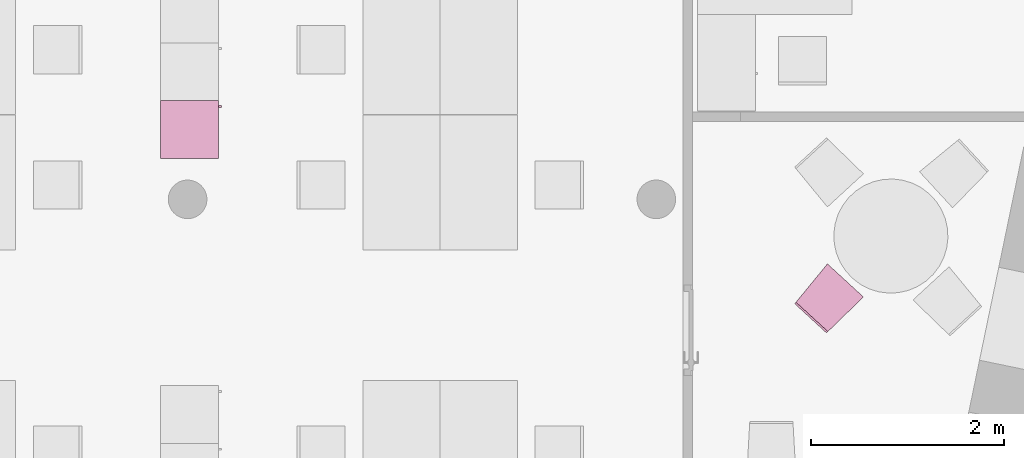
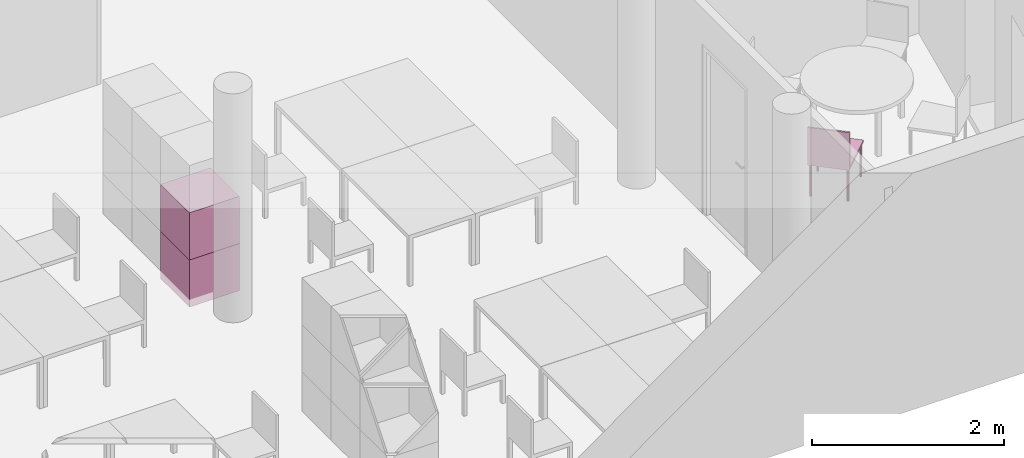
"""IFC4 building model written with IfcOpenShell, lengths in metres."""

from ifc_helpers import new_model, entity, si_unit, converted_unit, derived_unit, frame, origin, place, context, subcontext, project, spatial, faceted_brep, element, save


model = new_model("IFC4")

# Units and contexts
model_context = context("Model", 3, precision=1e-05, world=origin())
body_context = subcontext(model_context, "Body", "Model", "MODEL_VIEW")
ifc_project = project(units=[si_unit("LENGTHUNIT", "METRE"), si_unit("AREAUNIT", "SQUARE_METRE"), si_unit("VOLUMEUNIT", "CUBIC_METRE"), si_unit("MASSUNIT", "GRAM", prefix="KILO"), converted_unit("PLANEANGLEUNIT", "DEGREE", entity("IfcPlaneAngleMeasure", 0.0174532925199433), si_unit("PLANEANGLEUNIT", "RADIAN"), dimensions=[0, 0, 0, 0, 0, 0, 0]), derived_unit("THERMALTRANSMITTANCEUNIT", [(si_unit("POWERUNIT", "WATT"), 1), (si_unit("THERMODYNAMICTEMPERATUREUNIT", "KELVIN"), -1), (si_unit("LENGTHUNIT", "METRE"), -2)]), derived_unit("VOLUMETRICFLOWRATEUNIT", [(si_unit("LENGTHUNIT", "METRE"), 3), (converted_unit("TIMEUNIT", "hour", entity("IfcTimeMeasure", 3600.0), si_unit("TIMEUNIT", "SECOND"), dimensions=[0, 0, 1, 0, 0, 0, 0]), -1), (si_unit("LENGTHUNIT", "METRE"), -1)])], contexts=[model_context])

# Building, storeys
building_placement = place(None, origin())
building = spatial("IfcBuilding", under=ifc_project, at=building_placement, Name="HABITATGE PLURIFAMILIAR", CompositionType="ELEMENT")
storey_1_placement = place(building_placement, frame((0.0, 0.0, 12.27)))
storey_1 = spatial("IfcBuildingStorey", under=building, at=storey_1_placement, Name="PLANTA TERCERA", CompositionType="ELEMENT", Elevation=12.27)
storey_2_placement = place(storey_1_placement, frame((0.0, 0.0, 9.26)))
storey_2 = spatial("IfcBuildingStorey", under=storey_1, at=storey_2_placement, Name="NOU", CompositionType="PARTIAL")

# Furniture
furniture_1_placement = place(storey_2_placement, frame((422.425973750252, 16.4161636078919, -9.36074913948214)))
element("IfcFurniture", 1, at=furniture_1_placement, inside=storey_2, Name="Cadira confident_P3", context=body_context, shape_type="Brep", body=[
    faceted_brep([(0.328242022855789, 0.689838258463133, 0.0), (0.326652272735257, 0.687776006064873, 0.0), (0.325444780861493, 0.68546902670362, 0.0), (0.324656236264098, 0.682987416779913, 0.0), (0.324310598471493, 0.68040657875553, 0.0), (0.324418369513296, 0.677804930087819, 0.0), (0.324976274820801, 0.675261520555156, 0.0), (0.325967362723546, 0.672853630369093, 0.0), (0.327361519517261, 0.670654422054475, 0.0), (0.32911638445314, 0.668730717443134, 0.0), (0.331178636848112, 0.66714096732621, 0.0), (0.333485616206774, 0.665933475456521, 0.0), (0.335967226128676, 0.665144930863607, 0.0), (0.338548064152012, 0.664799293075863, 0.0), (0.34114971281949, 0.664907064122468, 0.0), (0.343693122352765, 0.665464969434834, 0.0), (0.346101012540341, 0.666456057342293, 0.0), (0.3483002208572, 0.667850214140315, 0.0), (0.350223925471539, 0.669605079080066, 0.0), (0.351813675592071, 0.671667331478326, 0.0), (0.353021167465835, 0.673974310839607, 0.0), (0.353809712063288, 0.676455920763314, 0.0), (0.354155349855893, 0.679036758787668, 0.0), (0.35404757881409, 0.681638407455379, 0.0), (0.353489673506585, 0.684181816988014, 0.0), (0.352498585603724, 0.686589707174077, 0.0), (0.351104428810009, 0.688788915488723, 0.0), (0.34934956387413, 0.690712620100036, 0.0), (0.347287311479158, 0.692302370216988, 0.0), (0.344980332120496, 0.693509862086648, 0.0), (0.34249872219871, 0.694298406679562, 0.0), (0.339917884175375, 0.694644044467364, 0.0), (0.337316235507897, 0.69453627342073, 0.0), (0.334772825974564, 0.693978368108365, 0.0), (0.332364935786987, 0.692987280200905, 0.0), (0.330165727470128, 0.691593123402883, 0.0), (0.328242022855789, 0.689838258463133, 0.448281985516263), (0.330165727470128, 0.691593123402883, 0.448281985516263), (0.332364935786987, 0.692987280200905, 0.448281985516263), (0.334772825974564, 0.693978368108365, 0.448281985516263), (0.337316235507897, 0.69453627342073, 0.448281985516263), (0.339917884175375, 0.694644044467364, 0.448281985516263), (0.34249872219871, 0.694298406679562, 0.448281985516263), (0.344980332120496, 0.693509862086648, 0.448281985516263), (0.347287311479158, 0.692302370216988, 0.448281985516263), (0.34934956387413, 0.690712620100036, 0.448281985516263), (0.351104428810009, 0.688788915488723, 0.448281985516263), (0.352498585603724, 0.686589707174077, 0.448281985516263), (0.353489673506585, 0.684181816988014, 0.448281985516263), (0.35404757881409, 0.681638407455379, 0.448281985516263), (0.354155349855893, 0.679036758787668, 0.448281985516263), (0.353809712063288, 0.676455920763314, 0.448281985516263), (0.353021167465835, 0.673974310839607, 0.448281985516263), (0.351813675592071, 0.671667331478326, 0.448281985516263), (0.350223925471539, 0.669605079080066, 0.448281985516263), (0.3483002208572, 0.667850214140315, 0.448281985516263), (0.346101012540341, 0.666456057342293, 0.448281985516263), (0.343693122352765, 0.665464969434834, 0.448281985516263), (0.34114971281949, 0.664907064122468, 0.448281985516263), (0.338548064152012, 0.664799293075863, 0.448281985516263), (0.335967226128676, 0.665144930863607, 0.448281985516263), (0.333485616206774, 0.665933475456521, 0.448281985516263), (0.331178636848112, 0.66714096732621, 0.448281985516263), (0.32911638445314, 0.668730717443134, 0.448281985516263), (0.327361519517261, 0.670654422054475, 0.448281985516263), (0.325967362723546, 0.672853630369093, 0.448281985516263), (0.324976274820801, 0.675261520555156, 0.448281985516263), (0.324418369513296, 0.677804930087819, 0.448281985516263), (0.324310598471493, 0.68040657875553, 0.448281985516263), (0.324656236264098, 0.682987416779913, 0.448281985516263), (0.325444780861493, 0.68546902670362, 0.448281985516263), (0.326652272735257, 0.687776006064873, 0.448281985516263)], [[[0, 1, 2, 3, 4, 5, 6, 7, 8, 9, 10, 11, 12, 13, 14, 15, 16, 17, 18, 19, 20, 21, 22, 23, 24, 25, 26, 27, 28, 29, 30, 31, 32, 33, 34, 35]], [[36, 37, 38, 39, 40, 41, 42, 43, 44, 45, 46, 47, 48, 49, 50, 51, 52, 53, 54, 55, 56, 57, 58, 59, 60, 61, 62, 63, 64, 65, 66, 67, 68, 69, 70, 71]], [[1, 0, 36, 71]], [[2, 1, 71, 70]], [[3, 2, 70, 69]], [[4, 3, 69, 68]], [[5, 4, 68, 67]], [[6, 5, 67, 66]], [[7, 6, 66, 65]], [[8, 7, 65, 64]], [[9, 8, 64, 63]], [[10, 9, 63, 62]], [[11, 10, 62, 61]], [[12, 11, 61, 60]], [[13, 12, 60, 59]], [[14, 13, 59, 58]], [[15, 14, 58, 57]], [[16, 15, 57, 56]], [[17, 16, 56, 55]], [[18, 17, 55, 54]], [[19, 18, 54, 53]], [[20, 19, 53, 52]], [[21, 20, 52, 51]], [[22, 21, 51, 50]], [[23, 22, 50, 49]], [[24, 23, 49, 48]], [[25, 24, 48, 47]], [[26, 25, 47, 46]], [[27, 26, 46, 45]], [[28, 27, 45, 44]], [[29, 28, 44, 43]], [[30, 29, 43, 42]], [[31, 30, 42, 41]], [[32, 31, 41, 40]], [[33, 32, 40, 39]], [[34, 33, 39, 38]], [[35, 34, 38, 37]], [[0, 35, 37, 36]]], orient=[[False], [False], [False], [False], [False], [False], [False], [False], [False], [False], [False], [False], [False], [False], [False], [False], [False], [False], [False], [False], [False], [False], [False], [False], [False], [False], [False], [False], [False], [False], [False], [False], [False], [False], [False], [False], [False], [False]]),
    faceted_brep([(0.0356304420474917, 0.330724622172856, 0.0), (0.0340406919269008, 0.328662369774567, 0.0), (0.0328332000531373, 0.326355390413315, 0.0), (0.0320446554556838, 0.323873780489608, 0.0), (0.0316990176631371, 0.321292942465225, 0.0), (0.0318067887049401, 0.318691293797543, 0.0), (0.0323646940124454, 0.316147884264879, 0.0), (0.0333557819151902, 0.313739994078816, 0.0), (0.0347499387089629, 0.311540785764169, 0.0), (0.0365048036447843, 0.309617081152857, 0.0), (0.0385670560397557, 0.308027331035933, 0.0), (0.0408740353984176, 0.306819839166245, 0.0), (0.04335564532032, 0.306031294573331, 0.0), (0.0459364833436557, 0.305685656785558, 0.0), (0.0485381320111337, 0.305793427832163, 0.0), (0.0510815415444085, 0.306351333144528, 0.0), (0.0534894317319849, 0.307342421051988, 0.0), (0.0556886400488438, 0.30873657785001, 0.0), (0.0576123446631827, 0.31049144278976, 0.0), (0.0592020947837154, 0.31255369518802, 0.0), (0.0604095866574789, 0.314860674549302, 0.0), (0.0611981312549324, 0.317342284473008, 0.0), (0.0615437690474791, 0.319923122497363, 0.0), (0.0614359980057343, 0.322524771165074, 0.0), (0.060878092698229, 0.325068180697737, 0.0), (0.0598870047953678, 0.3274760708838, 0.0), (0.0584928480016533, 0.329675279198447, 0.0), (0.0567379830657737, 0.331598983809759, 0.0), (0.0546757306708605, 0.333188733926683, 0.0), (0.0523687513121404, 0.334396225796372, 0.0), (0.0498871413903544, 0.335184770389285, 0.0), (0.0473063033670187, 0.335530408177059, 0.0), (0.0447046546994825, 0.335422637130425, 0.0), (0.0421612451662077, 0.334864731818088, 0.0), (0.0397533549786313, 0.333873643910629, 0.0), (0.0375541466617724, 0.332479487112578, 0.0), (0.0356304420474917, 0.330724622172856, 0.448281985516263), (0.0375541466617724, 0.332479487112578, 0.448281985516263), (0.0397533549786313, 0.333873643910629, 0.448281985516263), (0.0421612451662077, 0.334864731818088, 0.448281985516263), (0.0447046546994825, 0.335422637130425, 0.448281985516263), (0.0473063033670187, 0.335530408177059, 0.448281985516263), (0.0498871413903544, 0.335184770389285, 0.448281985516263), (0.0523687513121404, 0.334396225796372, 0.448281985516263), (0.0546757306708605, 0.333188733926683, 0.448281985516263), (0.0567379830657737, 0.331598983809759, 0.448281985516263), (0.0584928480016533, 0.329675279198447, 0.448281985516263), (0.0598870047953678, 0.3274760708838, 0.448281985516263), (0.060878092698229, 0.325068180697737, 0.448281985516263), (0.0614359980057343, 0.322524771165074, 0.448281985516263), (0.0615437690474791, 0.319923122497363, 0.448281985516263), (0.0611981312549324, 0.317342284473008, 0.448281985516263), (0.0604095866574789, 0.314860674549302, 0.448281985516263), (0.0592020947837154, 0.31255369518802, 0.448281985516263), (0.0576123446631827, 0.31049144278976, 0.448281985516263), (0.0556886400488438, 0.30873657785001, 0.448281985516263), (0.0534894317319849, 0.307342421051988, 0.448281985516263), (0.0510815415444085, 0.306351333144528, 0.448281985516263), (0.0485381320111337, 0.305793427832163, 0.448281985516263), (0.0459364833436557, 0.305685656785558, 0.448281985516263), (0.04335564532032, 0.306031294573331, 0.448281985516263), (0.0408740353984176, 0.306819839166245, 0.448281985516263), (0.0385670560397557, 0.308027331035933, 0.448281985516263), (0.0365048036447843, 0.309617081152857, 0.448281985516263), (0.0347499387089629, 0.311540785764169, 0.448281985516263), (0.0333557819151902, 0.313739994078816, 0.448281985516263), (0.0323646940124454, 0.316147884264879, 0.448281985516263), (0.0318067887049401, 0.318691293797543, 0.448281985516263), (0.0316990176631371, 0.321292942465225, 0.448281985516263), (0.0320446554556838, 0.323873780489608, 0.448281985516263), (0.0328332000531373, 0.326355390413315, 0.448281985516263), (0.0340406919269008, 0.328662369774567, 0.448281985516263)], [[[0, 1, 2, 3, 4, 5, 6, 7, 8, 9, 10, 11, 12, 13, 14, 15, 16, 17, 18, 19, 20, 21, 22, 23, 24, 25, 26, 27, 28, 29, 30, 31, 32, 33, 34, 35]], [[36, 37, 38, 39, 40, 41, 42, 43, 44, 45, 46, 47, 48, 49, 50, 51, 52, 53, 54, 55, 56, 57, 58, 59, 60, 61, 62, 63, 64, 65, 66, 67, 68, 69, 70, 71]], [[1, 0, 36, 71]], [[2, 1, 71, 70]], [[3, 2, 70, 69]], [[4, 3, 69, 68]], [[5, 4, 68, 67]], [[6, 5, 67, 66]], [[7, 6, 66, 65]], [[8, 7, 65, 64]], [[9, 8, 64, 63]], [[10, 9, 63, 62]], [[11, 10, 62, 61]], [[12, 11, 61, 60]], [[13, 12, 60, 59]], [[14, 13, 59, 58]], [[15, 14, 58, 57]], [[16, 15, 57, 56]], [[17, 16, 56, 55]], [[18, 17, 55, 54]], [[19, 18, 54, 53]], [[20, 19, 53, 52]], [[21, 20, 52, 51]], [[22, 21, 51, 50]], [[23, 22, 50, 49]], [[24, 23, 49, 48]], [[25, 24, 48, 47]], [[26, 25, 47, 46]], [[27, 26, 46, 45]], [[28, 27, 45, 44]], [[29, 28, 44, 43]], [[30, 29, 43, 42]], [[31, 30, 42, 41]], [[32, 31, 41, 40]], [[33, 32, 40, 39]], [[34, 33, 39, 38]], [[35, 34, 38, 37]], [[0, 35, 37, 36]]], orient=[[False], [False], [False], [False], [False], [False], [False], [False], [False], [False], [False], [False], [False], [False], [False], [False], [False], [False], [False], [False], [False], [False], [False], [False], [False], [False], [False], [False], [False], [False], [False], [False], [False], [False], [False], [False], [False], [False]]),
    faceted_brep([(0.666878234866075, 0.378509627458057, 0.0), (0.665288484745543, 0.376447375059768, 0.0), (0.664080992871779, 0.374140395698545, 0.0), (0.663292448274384, 0.371658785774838, 0.0), (0.662946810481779, 0.369077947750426, 0.0), (0.663054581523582, 0.366476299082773, 0.0), (0.663612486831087, 0.36393288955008, 0.0), (0.664603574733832, 0.361524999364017, 0.0), (0.665997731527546, 0.35932579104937, 0.0), (0.667752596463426, 0.357402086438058, 0.0), (0.669814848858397, 0.355812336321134, 0.0), (0.672121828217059, 0.354604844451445, 0.0), (0.674603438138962, 0.353816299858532, 0.0), (0.677184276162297, 0.353470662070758, 0.0), (0.679785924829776, 0.353578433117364, 0.0), (0.682329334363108, 0.354136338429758, 0.0), (0.684737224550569, 0.355127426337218, 0.0), (0.686936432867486, 0.35652158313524, 0.0), (0.688860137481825, 0.358276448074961, 0.0), (0.690449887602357, 0.36033870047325, 0.0), (0.691657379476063, 0.362645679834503, 0.0), (0.692445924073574, 0.365127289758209, 0.0), (0.692791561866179, 0.367708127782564, 0.0), (0.692683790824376, 0.370309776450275, 0.0), (0.692125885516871, 0.372853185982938, 0.0), (0.69113479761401, 0.375261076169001, 0.0), (0.689740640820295, 0.377460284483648, 0.0), (0.687985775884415, 0.379383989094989, 0.0), (0.685923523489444, 0.380973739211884, 0.0), (0.683616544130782, 0.382181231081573, 0.0), (0.681134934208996, 0.382969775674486, 0.0), (0.67855409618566, 0.383315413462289, 0.0), (0.675952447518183, 0.383207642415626, 0.0), (0.673409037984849, 0.382649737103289, 0.0), (0.671001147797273, 0.38165864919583, 0.0), (0.668801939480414, 0.380264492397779, 0.0), (0.666878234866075, 0.378509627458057, 0.448281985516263), (0.668801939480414, 0.380264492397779, 0.448281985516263), (0.671001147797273, 0.38165864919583, 0.448281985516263), (0.673409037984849, 0.382649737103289, 0.448281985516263), (0.675952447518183, 0.383207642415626, 0.448281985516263), (0.67855409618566, 0.383315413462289, 0.448281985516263), (0.681134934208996, 0.382969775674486, 0.448281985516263), (0.683616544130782, 0.382181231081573, 0.448281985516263), (0.685923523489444, 0.380973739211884, 0.448281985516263), (0.687985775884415, 0.379383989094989, 0.448281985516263), (0.689740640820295, 0.377460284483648, 0.448281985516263), (0.69113479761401, 0.375261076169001, 0.448281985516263), (0.692125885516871, 0.372853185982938, 0.448281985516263), (0.692683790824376, 0.370309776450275, 0.448281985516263), (0.692791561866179, 0.367708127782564, 0.448281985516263), (0.692445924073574, 0.365127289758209, 0.448281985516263), (0.691657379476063, 0.362645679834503, 0.448281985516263), (0.690449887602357, 0.36033870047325, 0.448281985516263), (0.688860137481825, 0.358276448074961, 0.448281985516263), (0.686936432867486, 0.35652158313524, 0.448281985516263), (0.684737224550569, 0.355127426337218, 0.448281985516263), (0.682329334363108, 0.354136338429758, 0.448281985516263), (0.679785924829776, 0.353578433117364, 0.448281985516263), (0.677184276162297, 0.353470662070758, 0.448281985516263), (0.674603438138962, 0.353816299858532, 0.448281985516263), (0.672121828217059, 0.354604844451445, 0.448281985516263), (0.669814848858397, 0.355812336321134, 0.448281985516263), (0.667752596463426, 0.357402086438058, 0.448281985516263), (0.665997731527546, 0.35932579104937, 0.448281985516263), (0.664603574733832, 0.361524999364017, 0.448281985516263), (0.663612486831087, 0.36393288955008, 0.448281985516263), (0.663054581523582, 0.366476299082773, 0.448281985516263), (0.662946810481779, 0.369077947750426, 0.448281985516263), (0.663292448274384, 0.371658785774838, 0.448281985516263), (0.664080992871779, 0.374140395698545, 0.448281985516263), (0.665288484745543, 0.376447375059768, 0.448281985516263)], [[[0, 1, 2, 3, 4, 5, 6, 7, 8, 9, 10, 11, 12, 13, 14, 15, 16, 17, 18, 19, 20, 21, 22, 23, 24, 25, 26, 27, 28, 29, 30, 31, 32, 33, 34, 35]], [[36, 37, 38, 39, 40, 41, 42, 43, 44, 45, 46, 47, 48, 49, 50, 51, 52, 53, 54, 55, 56, 57, 58, 59, 60, 61, 62, 63, 64, 65, 66, 67, 68, 69, 70, 71]], [[1, 0, 36, 71]], [[2, 1, 71, 70]], [[3, 2, 70, 69]], [[4, 3, 69, 68]], [[5, 4, 68, 67]], [[6, 5, 67, 66]], [[7, 6, 66, 65]], [[8, 7, 65, 64]], [[9, 8, 64, 63]], [[10, 9, 63, 62]], [[11, 10, 62, 61]], [[12, 11, 61, 60]], [[13, 12, 60, 59]], [[14, 13, 59, 58]], [[15, 14, 58, 57]], [[16, 15, 57, 56]], [[17, 16, 56, 55]], [[18, 17, 55, 54]], [[19, 18, 54, 53]], [[20, 19, 53, 52]], [[21, 20, 52, 51]], [[22, 21, 51, 50]], [[23, 22, 50, 49]], [[24, 23, 49, 48]], [[25, 24, 48, 47]], [[26, 25, 47, 46]], [[27, 26, 46, 45]], [[28, 27, 45, 44]], [[29, 28, 44, 43]], [[30, 29, 43, 42]], [[31, 30, 42, 41]], [[32, 31, 41, 40]], [[33, 32, 40, 39]], [[34, 33, 39, 38]], [[35, 34, 38, 37]], [[0, 35, 37, 36]]], orient=[[False], [False], [False], [False], [False], [False], [False], [False], [False], [False], [False], [False], [False], [False], [False], [False], [False], [False], [False], [False], [False], [False], [False], [False], [False], [False], [False], [False], [False], [False], [False], [False], [False], [False], [False], [False], [False], [False]]),
    faceted_brep([(0.330096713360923, 0.0600040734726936, 0.0), (0.328506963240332, 0.0579418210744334, 0.0), (0.327299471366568, 0.0556348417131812, 0.0), (0.326510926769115, 0.0531532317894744, 0.0), (0.326165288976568, 0.050572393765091, 0.0), (0.326273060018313, 0.0479707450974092, 0.0), (0.326830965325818, 0.0454273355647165, 0.0), (0.327822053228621, 0.0430194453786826, 0.0), (0.329216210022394, 0.0408202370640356, 0.0), (0.330971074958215, 0.0388965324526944, 0.0), (0.333033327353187, 0.0373067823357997, 0.0), (0.335340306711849, 0.0360992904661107, 0.0), (0.337821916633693, 0.0353107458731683, 0.0), (0.340402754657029, 0.0349651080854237, 0.0), (0.343004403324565, 0.0350728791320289, 0.0), (0.34554781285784, 0.0356307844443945, 0.0), (0.347955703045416, 0.0366218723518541, 0.0), (0.350154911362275, 0.038016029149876, 0.0), (0.352078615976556, 0.0397708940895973, 0.0), (0.353668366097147, 0.0418331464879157, 0.0), (0.35487585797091, 0.0441401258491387, 0.0), (0.355664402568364, 0.0466217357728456, 0.0), (0.35601004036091, 0.049202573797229, 0.0), (0.355902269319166, 0.0518042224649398, 0.0), (0.35534436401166, 0.0543476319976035, 0.0), (0.354353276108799, 0.0567555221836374, 0.0), (0.352959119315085, 0.0589547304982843, 0.0), (0.351204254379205, 0.0608784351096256, 0.0), (0.349142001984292, 0.0624681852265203, 0.0), (0.346835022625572, 0.0636756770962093, 0.0), (0.344353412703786, 0.0644642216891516, 0.0), (0.34177257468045, 0.0648098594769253, 0.0), (0.339170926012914, 0.064702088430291, 0.0), (0.336627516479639, 0.0641441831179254, 0.0), (0.334219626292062, 0.0631530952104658, 0.0), (0.332020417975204, 0.0617589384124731, 0.0), (0.330096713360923, 0.0600040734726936, 0.448281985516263), (0.332020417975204, 0.0617589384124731, 0.448281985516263), (0.334219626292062, 0.0631530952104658, 0.448281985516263), (0.336627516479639, 0.0641441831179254, 0.448281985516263), (0.339170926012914, 0.064702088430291, 0.448281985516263), (0.34177257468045, 0.0648098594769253, 0.448281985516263), (0.344353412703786, 0.0644642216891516, 0.448281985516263), (0.346835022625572, 0.0636756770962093, 0.448281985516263), (0.349142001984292, 0.0624681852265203, 0.448281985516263), (0.351204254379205, 0.0608784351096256, 0.448281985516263), (0.352959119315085, 0.0589547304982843, 0.448281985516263), (0.354353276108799, 0.0567555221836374, 0.448281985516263), (0.35534436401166, 0.0543476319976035, 0.448281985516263), (0.355902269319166, 0.0518042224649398, 0.448281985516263), (0.35601004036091, 0.049202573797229, 0.448281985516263), (0.355664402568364, 0.0466217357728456, 0.448281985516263), (0.35487585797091, 0.0441401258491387, 0.448281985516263), (0.353668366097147, 0.0418331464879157, 0.448281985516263), (0.352078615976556, 0.0397708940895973, 0.448281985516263), (0.350154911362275, 0.038016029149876, 0.448281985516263), (0.347955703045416, 0.0366218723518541, 0.448281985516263), (0.34554781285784, 0.0356307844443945, 0.448281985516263), (0.343004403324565, 0.0350728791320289, 0.448281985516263), (0.340402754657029, 0.0349651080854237, 0.448281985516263), (0.337821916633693, 0.0353107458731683, 0.448281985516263), (0.335340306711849, 0.0360992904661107, 0.448281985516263), (0.333033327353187, 0.0373067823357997, 0.448281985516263), (0.330971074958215, 0.0388965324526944, 0.448281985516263), (0.329216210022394, 0.0408202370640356, 0.448281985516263), (0.327822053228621, 0.0430194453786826, 0.448281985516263), (0.326830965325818, 0.0454273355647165, 0.448281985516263), (0.326273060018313, 0.0479707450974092, 0.448281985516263), (0.326165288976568, 0.050572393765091, 0.448281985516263), (0.326510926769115, 0.0531532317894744, 0.448281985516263), (0.327299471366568, 0.0556348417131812, 0.448281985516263), (0.328506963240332, 0.0579418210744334, 0.448281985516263)], [[[0, 1, 2, 3, 4, 5, 6, 7, 8, 9, 10, 11, 12, 13, 14, 15, 16, 17, 18, 19, 20, 21, 22, 23, 24, 25, 26, 27, 28, 29, 30, 31, 32, 33, 34, 35]], [[36, 37, 38, 39, 40, 41, 42, 43, 44, 45, 46, 47, 48, 49, 50, 51, 52, 53, 54, 55, 56, 57, 58, 59, 60, 61, 62, 63, 64, 65, 66, 67, 68, 69, 70, 71]], [[1, 0, 36, 71]], [[2, 1, 71, 70]], [[3, 2, 70, 69]], [[4, 3, 69, 68]], [[5, 4, 68, 67]], [[6, 5, 67, 66]], [[7, 6, 66, 65]], [[8, 7, 65, 64]], [[9, 8, 64, 63]], [[10, 9, 63, 62]], [[11, 10, 62, 61]], [[12, 11, 61, 60]], [[13, 12, 60, 59]], [[14, 13, 59, 58]], [[15, 14, 58, 57]], [[16, 15, 57, 56]], [[17, 16, 56, 55]], [[18, 17, 55, 54]], [[19, 18, 54, 53]], [[20, 19, 53, 52]], [[21, 20, 52, 51]], [[22, 21, 51, 50]], [[23, 22, 50, 49]], [[24, 23, 49, 48]], [[25, 24, 48, 47]], [[26, 25, 47, 46]], [[27, 26, 46, 45]], [[28, 27, 45, 44]], [[29, 28, 44, 43]], [[30, 29, 43, 42]], [[31, 30, 42, 41]], [[32, 31, 41, 40]], [[33, 32, 40, 39]], [[34, 33, 39, 38]], [[35, 34, 38, 37]], [[0, 35, 37, 36]]], orient=[[False], [False], [False], [False], [False], [False], [False], [False], [False], [False], [False], [False], [False], [False], [False], [False], [False], [False], [False], [False], [False], [False], [False], [False], [False], [False], [False], [False], [False], [False], [False], [False], [False], [False], [False], [False], [False], [False]]),
    faceted_brep([(0.328708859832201, 0.0, 0.418281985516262), (0.711263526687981, 0.371783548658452, 0.418281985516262), (0.338384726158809, 0.714593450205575, 0.418281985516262), (0.0, 0.302201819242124, 0.418281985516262), (0.711263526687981, 0.371783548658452, 0.448281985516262), (0.328708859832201, 0.0, 0.448281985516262), (0.0, 0.302201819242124, 0.448281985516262), (0.338384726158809, 0.714593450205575, 0.448281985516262)], [[[0, 1, 2, 3]], [[4, 5, 6, 7]], [[1, 0, 5, 4]], [[2, 1, 4, 7]], [[3, 2, 7, 6]], [[0, 3, 6, 5]]], orient=[[False], [False], [False], [False], [False], [False]]),
    faceted_brep([(0.342244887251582, 0.0147233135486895, 0.448281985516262), (0.0135360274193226, 0.316925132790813, 0.448281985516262), (0.0, 0.302201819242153, 0.448281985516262), (0.328708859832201, 0.0, 0.448281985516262), (0.0135360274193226, 0.316925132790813, 0.89828198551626), (0.342244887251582, 0.0147233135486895, 0.89828198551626), (0.328708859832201, 0.0, 0.89828198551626), (0.0, 0.302201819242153, 0.89828198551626)], [[[0, 1, 2, 3]], [[4, 5, 6, 7]], [[1, 0, 5, 4]], [[2, 1, 4, 7]], [[3, 2, 7, 6]], [[0, 3, 6, 5]]], orient=[[False], [False], [False], [False], [False], [False]]),
])
furniture_2_placement = place(storey_2_placement, frame((415.856984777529, 18.2211705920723, -9.3599999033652)))
element("IfcFurniture", 2, at=furniture_2_placement, inside=storey_2, Name="Armai 60x60x60_P3", context=body_context, shape_type="Brep", body=[
    faceted_brep([(0.6, 0.600000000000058, 0.02), (0.6, 0.600000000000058, 0.0), (0.6, 0.0, 0.0), (0.6, 0.0, 0.02), (0.0, 0.0, 0.0), (0.0, 0.0, 0.02), (0.0, 0.600000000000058, 0.0), (0.0, 0.600000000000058, 0.02)], [[[0, 1, 2, 3]], [[3, 2, 4, 5]], [[5, 4, 6, 7]], [[7, 6, 1, 0]], [[0, 3, 5, 7]], [[1, 6, 4, 2]]], orient=[[False], [False], [False], [False], [False], [False]]),
    faceted_brep([(0.0, 0.02, 0.58), (0.0200000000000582, 0.02, 0.58), (0.0200000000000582, 0.02, 0.02), (0.0, 0.02, 0.02), (0.0200000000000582, 0.58, 0.02), (0.0, 0.58, 0.02), (0.0200000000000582, 0.58, 0.58), (0.0, 0.58, 0.58)], [[[0, 1, 2, 3]], [[3, 2, 4, 5]], [[5, 4, 6, 7]], [[7, 6, 1, 0]], [[0, 3, 5, 7]], [[1, 6, 4, 2]]], orient=[[False], [False], [False], [False], [False], [False]]),
    faceted_brep([(0.6, 0.58, 0.58), (0.6, 0.6, 0.58), (0.6, 0.6, 0.02), (0.6, 0.58, 0.02), (0.0, 0.6, 0.02), (0.0, 0.58, 0.02), (0.0, 0.6, 0.58), (0.0, 0.58, 0.58)], [[[0, 1, 2, 3]], [[3, 2, 4, 5]], [[5, 4, 6, 7]], [[7, 6, 1, 0]], [[0, 3, 5, 7]], [[1, 6, 4, 2]]], orient=[[False], [False], [False], [False], [False], [False]]),
    faceted_brep([(0.58, 0.600000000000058, 0.58), (0.6, 0.600000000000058, 0.58), (0.6, 0.600000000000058, 0.02), (0.58, 0.600000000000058, 0.02), (0.6, 0.580000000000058, 0.02), (0.58, 0.580000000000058, 0.02), (0.6, 0.580000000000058, 0.58), (0.58, 0.580000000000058, 0.58)], [[[0, 1, 2, 3]], [[3, 2, 4, 5]], [[5, 4, 6, 7]], [[7, 6, 1, 0]], [[0, 3, 5, 7]], [[1, 6, 4, 2]]], orient=[[False], [False], [False], [False], [False], [False]]),
    faceted_brep([(0.6, 0.0, 0.58), (0.6, 0.0200000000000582, 0.58), (0.6, 0.0200000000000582, 0.02), (0.6, 0.0, 0.02), (0.0, 0.0200000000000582, 0.02), (0.0, 0.0, 0.02), (0.0, 0.0200000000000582, 0.58), (0.0, 0.0, 0.58)], [[[0, 1, 2, 3]], [[3, 2, 4, 5]], [[5, 4, 6, 7]], [[7, 6, 1, 0]], [[0, 3, 5, 7]], [[1, 6, 4, 2]]], orient=[[False], [False], [False], [False], [False], [False]]),
    faceted_brep([(0.600000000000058, 0.6, 0.6), (0.600000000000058, 0.6, 0.58), (0.600000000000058, 0.0, 0.58), (0.600000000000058, 0.0, 0.6), (0.0, 0.0, 0.58), (0.0, 0.0, 0.6), (0.0, 0.6, 0.58), (0.0, 0.6, 0.6)], [[[0, 1, 2, 3]], [[3, 2, 4, 5]], [[5, 4, 6, 7]], [[7, 6, 1, 0]], [[0, 3, 5, 7]], [[1, 6, 4, 2]]], orient=[[False], [False], [False], [False], [False], [False]]),
    faceted_brep([(0.580000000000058, 0.02, 0.58), (0.600000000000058, 0.02, 0.58), (0.600000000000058, 0.02, 0.02), (0.580000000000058, 0.02, 0.02), (0.600000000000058, 0.580000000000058, 0.02), (0.580000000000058, 0.580000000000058, 0.02), (0.600000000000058, 0.580000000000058, 0.58), (0.580000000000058, 0.580000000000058, 0.58)], [[[0, 1, 2, 3]], [[3, 2, 4, 5]], [[5, 4, 6, 7]], [[7, 6, 1, 0]], [[0, 3, 5, 7]], [[1, 6, 4, 2]]], orient=[[False], [False], [False], [False], [False], [False]]),
    faceted_brep([(0.600000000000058, 0.53, 0.358064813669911), (0.630000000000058, 0.53, 0.358064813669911), (0.630000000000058, 0.53, 0.258064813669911), (0.600000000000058, 0.53, 0.258064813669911), (0.630000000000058, 0.55, 0.258064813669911), (0.600000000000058, 0.55, 0.258064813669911), (0.630000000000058, 0.55, 0.358064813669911), (0.600000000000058, 0.55, 0.358064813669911)], [[[0, 1, 2, 3]], [[3, 2, 4, 5]], [[5, 4, 6, 7]], [[7, 6, 1, 0]], [[0, 3, 5, 7]], [[1, 6, 4, 2]]], orient=[[False], [False], [False], [False], [False], [False]]),
])
furniture_3_placement = place(storey_2_placement, frame((415.856984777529, 18.2211705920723, -8.7599999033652)))
element("IfcFurniture", 3, at=furniture_3_placement, inside=storey_2, Name="Armai 60x60x60_P3", context=body_context, shape_type="Brep", body=[
    faceted_brep([(0.6, 0.600000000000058, 0.02), (0.6, 0.600000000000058, 0.0), (0.6, 0.0, 0.0), (0.6, 0.0, 0.02), (0.0, 0.0, 0.0), (0.0, 0.0, 0.02), (0.0, 0.600000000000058, 0.0), (0.0, 0.600000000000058, 0.02)], [[[0, 1, 2, 3]], [[3, 2, 4, 5]], [[5, 4, 6, 7]], [[7, 6, 1, 0]], [[0, 3, 5, 7]], [[1, 6, 4, 2]]], orient=[[False], [False], [False], [False], [False], [False]]),
    faceted_brep([(0.0, 0.02, 0.58), (0.0200000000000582, 0.02, 0.58), (0.0200000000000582, 0.02, 0.02), (0.0, 0.02, 0.02), (0.0200000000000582, 0.58, 0.02), (0.0, 0.58, 0.02), (0.0200000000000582, 0.58, 0.58), (0.0, 0.58, 0.58)], [[[0, 1, 2, 3]], [[3, 2, 4, 5]], [[5, 4, 6, 7]], [[7, 6, 1, 0]], [[0, 3, 5, 7]], [[1, 6, 4, 2]]], orient=[[False], [False], [False], [False], [False], [False]]),
    faceted_brep([(0.6, 0.58, 0.58), (0.6, 0.6, 0.58), (0.6, 0.6, 0.02), (0.6, 0.58, 0.02), (0.0, 0.6, 0.02), (0.0, 0.58, 0.02), (0.0, 0.6, 0.58), (0.0, 0.58, 0.58)], [[[0, 1, 2, 3]], [[3, 2, 4, 5]], [[5, 4, 6, 7]], [[7, 6, 1, 0]], [[0, 3, 5, 7]], [[1, 6, 4, 2]]], orient=[[False], [False], [False], [False], [False], [False]]),
    faceted_brep([(0.58, 0.600000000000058, 0.58), (0.6, 0.600000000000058, 0.58), (0.6, 0.600000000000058, 0.02), (0.58, 0.600000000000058, 0.02), (0.6, 0.580000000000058, 0.02), (0.58, 0.580000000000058, 0.02), (0.6, 0.580000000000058, 0.58), (0.58, 0.580000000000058, 0.58)], [[[0, 1, 2, 3]], [[3, 2, 4, 5]], [[5, 4, 6, 7]], [[7, 6, 1, 0]], [[0, 3, 5, 7]], [[1, 6, 4, 2]]], orient=[[False], [False], [False], [False], [False], [False]]),
    faceted_brep([(0.6, 0.0, 0.58), (0.6, 0.0200000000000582, 0.58), (0.6, 0.0200000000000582, 0.02), (0.6, 0.0, 0.02), (0.0, 0.0200000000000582, 0.02), (0.0, 0.0, 0.02), (0.0, 0.0200000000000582, 0.58), (0.0, 0.0, 0.58)], [[[0, 1, 2, 3]], [[3, 2, 4, 5]], [[5, 4, 6, 7]], [[7, 6, 1, 0]], [[0, 3, 5, 7]], [[1, 6, 4, 2]]], orient=[[False], [False], [False], [False], [False], [False]]),
    faceted_brep([(0.600000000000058, 0.6, 0.6), (0.600000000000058, 0.6, 0.58), (0.600000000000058, 0.0, 0.58), (0.600000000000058, 0.0, 0.6), (0.0, 0.0, 0.58), (0.0, 0.0, 0.6), (0.0, 0.6, 0.58), (0.0, 0.6, 0.6)], [[[0, 1, 2, 3]], [[3, 2, 4, 5]], [[5, 4, 6, 7]], [[7, 6, 1, 0]], [[0, 3, 5, 7]], [[1, 6, 4, 2]]], orient=[[False], [False], [False], [False], [False], [False]]),
    faceted_brep([(0.580000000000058, 0.02, 0.58), (0.600000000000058, 0.02, 0.58), (0.600000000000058, 0.02, 0.02), (0.580000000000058, 0.02, 0.02), (0.600000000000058, 0.580000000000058, 0.02), (0.580000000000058, 0.580000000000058, 0.02), (0.600000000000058, 0.580000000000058, 0.58), (0.580000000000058, 0.580000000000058, 0.58)], [[[0, 1, 2, 3]], [[3, 2, 4, 5]], [[5, 4, 6, 7]], [[7, 6, 1, 0]], [[0, 3, 5, 7]], [[1, 6, 4, 2]]], orient=[[False], [False], [False], [False], [False], [False]]),
    faceted_brep([(0.600000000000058, 0.53, 0.358064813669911), (0.630000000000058, 0.53, 0.358064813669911), (0.630000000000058, 0.53, 0.258064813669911), (0.600000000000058, 0.53, 0.258064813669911), (0.630000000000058, 0.55, 0.258064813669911), (0.600000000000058, 0.55, 0.258064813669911), (0.630000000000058, 0.55, 0.358064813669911), (0.600000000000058, 0.55, 0.358064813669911)], [[[0, 1, 2, 3]], [[3, 2, 4, 5]], [[5, 4, 6, 7]], [[7, 6, 1, 0]], [[0, 3, 5, 7]], [[1, 6, 4, 2]]], orient=[[False], [False], [False], [False], [False], [False]]),
])

save(model, "model.ifc")
